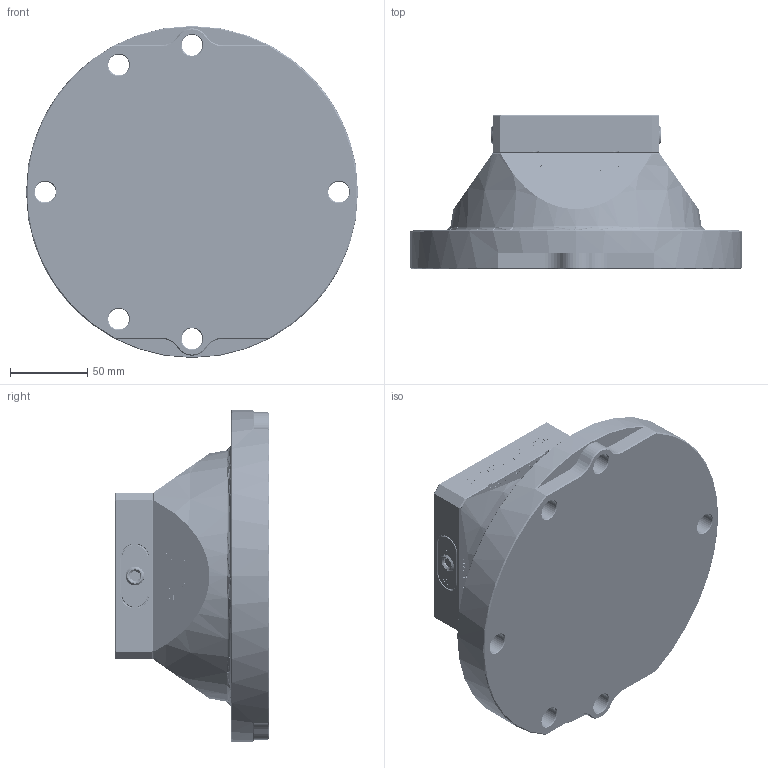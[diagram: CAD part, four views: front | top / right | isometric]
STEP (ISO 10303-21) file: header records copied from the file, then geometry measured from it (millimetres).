
FILE_DESCRIPTION((''),'2;1');
FILE_NAME('TS52-215_SS','2023-11-22T15:17:06',('XF'),(''),'CREO PARAMETRIC BY PTC INC, 2022073','CREO PARAMETRIC BY PTC INC, 2022073','');
FILE_SCHEMA(('CONFIG_CONTROL_DESIGN'));
Products named in the file (1): TS52-215_SS
Bounding box: 215 x 100 x 215 mm (x, y, z)
Volume: 1978337 mm3; surface area: 140410.7 mm2
Topology: 5 solids, 10 shells, 4581 faces, 11364 edges, 7316 vertices
Faces by surface type: plane 1871, cone 1264, extrusion 1132, cylinder 242, torus 42, bspline 30
Entity records: 143098 total; most frequent: CARTESIAN_POINT 37079, ORIENTED_EDGE 22712, DIRECTION 19228, EDGE_CURVE 11356, VECTOR 7670, VERTEX_POINT 7316, LINE 6538, AXIS2_PLACEMENT_3D 5779
